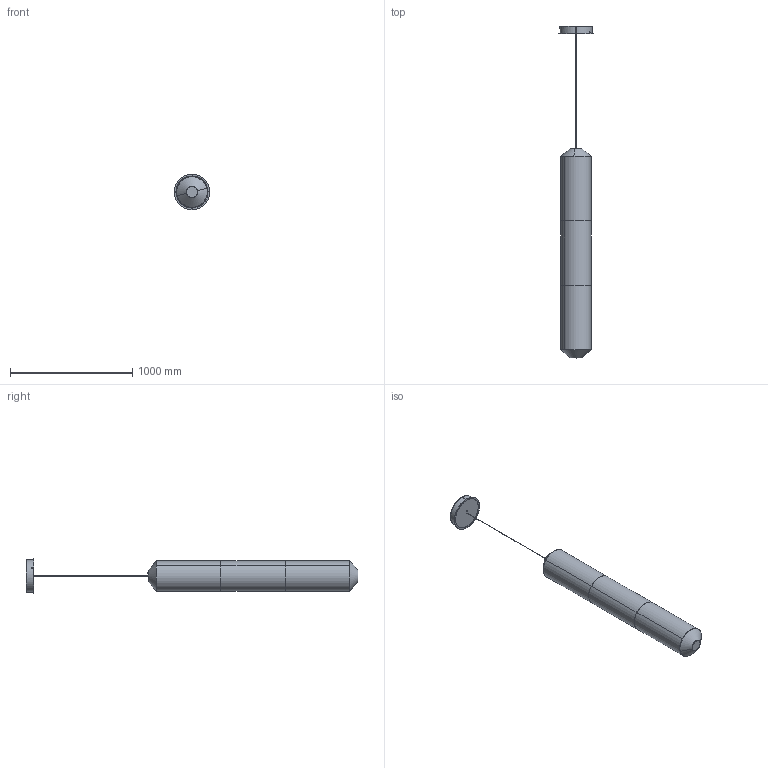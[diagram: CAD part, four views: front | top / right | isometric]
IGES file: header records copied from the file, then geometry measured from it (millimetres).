
Start section: SolidWorks IGES file using analytic representation for surfaces
Global section: file name: C:\Users\bernat.bisbal\Desktop\3D TEKIÒ WEB\TEKVP3.IGS; native system: SolidWorks 2016; preprocessor: SolidWorks 2016; author: bernat.bisbal; date: 180702.145315; units: millimetre
Bounding box: 290 x 2716.01 x 290 mm (x, y, z)
Surface area: 3086528.2 mm2 (no closed solid volume)
Topology: 0 solids, 0 shells, 182 faces, 4201 edges, 4201 vertices
Faces by surface type: revolution 118, bspline 64
